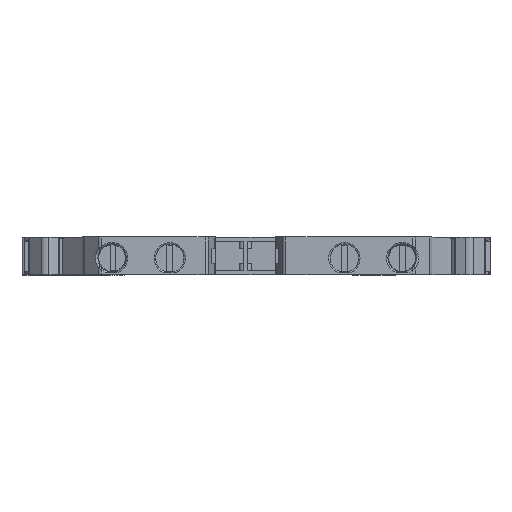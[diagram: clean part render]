
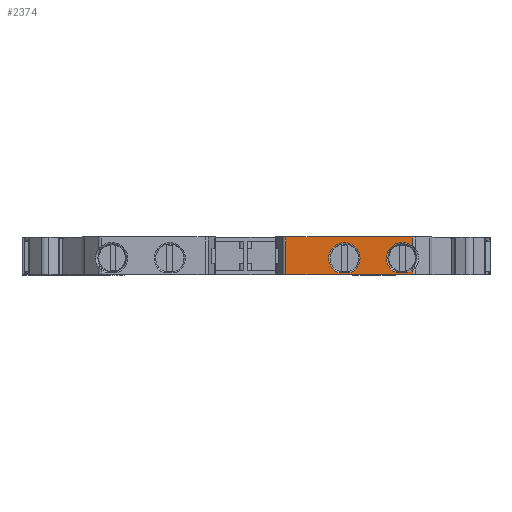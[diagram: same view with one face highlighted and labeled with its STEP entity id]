
A CAD part, top view. The second image highlights one B-rep face of the part: STEP entity #2374.
In plain terms, the highlighted planar face has unit normal (0, 0, 1).
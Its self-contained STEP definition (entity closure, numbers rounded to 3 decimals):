
#663=CARTESIAN_POINT('',(21.393,1.219,40.));
#664=VERTEX_POINT('',#663);
#672=CARTESIAN_POINT('',(21.393,0.542,40.));
#673=VERTEX_POINT('',#672);
#674=CARTESIAN_POINT('',(21.393,0.542,40.));
#675=DIRECTION('',(0.,1.,0.));
#676=VECTOR('',#675,0.677);
#677=LINE('',#674,#676);
#678=EDGE_CURVE('',#673,#664,#677,.T.);
#1394=CARTESIAN_POINT('',(3.95,5.692,40.));
#1395=VERTEX_POINT('',#1394);
#1403=CARTESIAN_POINT('',(21.393,5.692,40.));
#1404=VERTEX_POINT('',#1403);
#1405=CARTESIAN_POINT('',(21.393,5.692,40.));
#1406=DIRECTION('',(-1.,0.,0.));
#1407=VECTOR('',#1406,17.443);
#1408=LINE('',#1405,#1407);
#1409=EDGE_CURVE('',#1404,#1395,#1408,.T.);
#2287=CARTESIAN_POINT('',(3.95,0.542,40.));
#2288=VERTEX_POINT('',#2287);
#2296=CARTESIAN_POINT('',(3.95,0.542,40.));
#2297=DIRECTION('',(0.,1.,0.));
#2298=VECTOR('',#2297,5.15);
#2299=LINE('',#2296,#2298);
#2300=EDGE_CURVE('',#2288,#1395,#2299,.T.);
#2307=CARTESIAN_POINT('',(12.671,3.117,40.));
#2308=DIRECTION('',(1.,0.,0.));
#2309=DIRECTION('',(0.,0.,-1.));
#2310=AXIS2_PLACEMENT_3D('',#2307,#2309,#2308);
#2311=PLANE('',#2310);
#2312=CARTESIAN_POINT('',(3.95,0.542,40.));
#2313=DIRECTION('',(1.,0.,0.));
#2314=VECTOR('',#2313,17.443);
#2315=LINE('',#2312,#2314);
#2316=EDGE_CURVE('',#2288,#673,#2315,.T.);
#2317=ORIENTED_EDGE('E3440',*,*,#2316,.F.);
#2318=ORIENTED_EDGE('E3440',*,*,#2300,.T.);
#2319=ORIENTED_EDGE('E3440',*,*,#1409,.F.);
#2320=CARTESIAN_POINT('',(21.393,4.361,40.));
#2321=VERTEX_POINT('',#2320);
#2322=CARTESIAN_POINT('',(21.393,4.361,40.));
#2323=DIRECTION('',(0.,1.,0.));
#2324=VECTOR('',#2323,1.331);
#2325=LINE('',#2322,#2324);
#2326=EDGE_CURVE('',#2321,#1404,#2325,.T.);
#2327=ORIENTED_EDGE('E1619',*,*,#2326,.F.);
#2328=CARTESIAN_POINT('',(19.27,0.742,40.));
#2329=VERTEX_POINT('',#2328);
#2330=CARTESIAN_POINT('',(19.925,2.79,40.));
#2331=DIRECTION('',(0.683,0.731,0.));
#2332=DIRECTION('',(0.,0.,1.));
#2333=AXIS2_PLACEMENT_3D('',#2330,#2332,#2331);
#2334=CIRCLE('',#2333,2.15);
#2335=EDGE_CURVE('',#2321,#2329,#2334,.T.);
#2336=ORIENTED_EDGE('E1620',*,*,#2335,.T.);
#2337=CARTESIAN_POINT('',(20.58,0.742,40.));
#2338=VERTEX_POINT('',#2337);
#2339=CARTESIAN_POINT('',(19.27,0.742,40.));
#2340=DIRECTION('',(1.,0.,0.));
#2341=VECTOR('',#2340,1.311);
#2342=LINE('',#2339,#2341);
#2343=EDGE_CURVE('',#2329,#2338,#2342,.T.);
#2344=ORIENTED_EDGE('E1621',*,*,#2343,.T.);
#2345=CARTESIAN_POINT('',(19.925,2.79,40.));
#2346=DIRECTION('',(0.305,-0.952,0.));
#2347=DIRECTION('',(0.,0.,1.));
#2348=AXIS2_PLACEMENT_3D('',#2345,#2347,#2346);
#2349=CIRCLE('',#2348,2.15);
#2350=EDGE_CURVE('',#2338,#664,#2349,.T.);
#2351=ORIENTED_EDGE('E1622',*,*,#2350,.T.);
#2352=ORIENTED_EDGE('E1622',*,*,#678,.F.);
#2353=EDGE_LOOP('',(#2317,#2318,#2319,#2327,#2336,#2344,#2351,#2352));
#2354=FACE_OUTER_BOUND('',#2353,.F.);
#2355=CARTESIAN_POINT('',(11.256,0.742,40.));
#2356=VERTEX_POINT('',#2355);
#2357=CARTESIAN_POINT('',(12.734,0.742,40.));
#2358=VERTEX_POINT('',#2357);
#2359=CARTESIAN_POINT('',(11.256,0.742,40.));
#2360=DIRECTION('',(1.,0.,0.));
#2361=VECTOR('',#2360,1.477);
#2362=LINE('',#2359,#2361);
#2363=EDGE_CURVE('',#2356,#2358,#2362,.T.);
#2364=ORIENTED_EDGE('E1623',*,*,#2363,.T.);
#2365=CARTESIAN_POINT('',(11.995,2.761,40.));
#2366=DIRECTION('',(0.344,-0.939,0.));
#2367=DIRECTION('',(0.,0.,1.));
#2368=AXIS2_PLACEMENT_3D('',#2365,#2367,#2366);
#2369=CIRCLE('',#2368,2.15);
#2370=EDGE_CURVE('',#2358,#2356,#2369,.T.);
#2371=ORIENTED_EDGE('E1624',*,*,#2370,.T.);
#2372=EDGE_LOOP('',(#2364,#2371));
#2373=FACE_BOUND('',#2372,.F.);
#2374=ADVANCED_FACE('F208',(#2354,#2373),#2311,.F.);
